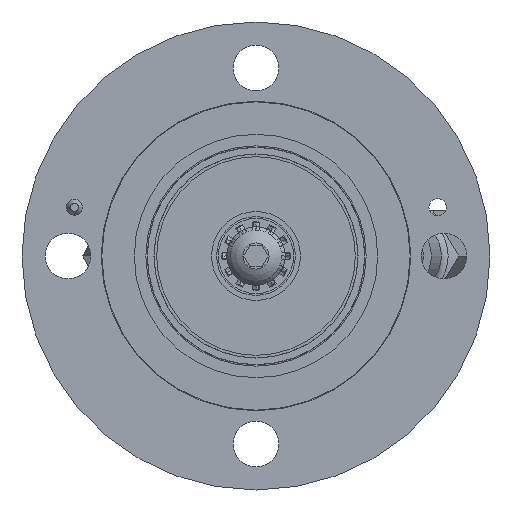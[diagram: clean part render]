
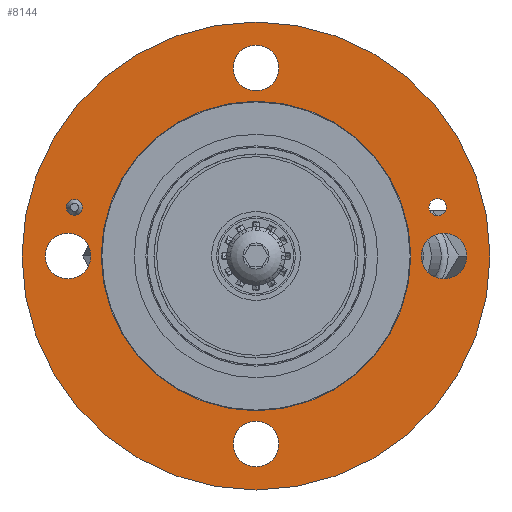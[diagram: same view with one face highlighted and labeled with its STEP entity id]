
A CAD part, front view. The second image highlights one B-rep face of the part: STEP entity #8144.
In plain terms, the highlighted planar face has unit normal (0, -1, 0).
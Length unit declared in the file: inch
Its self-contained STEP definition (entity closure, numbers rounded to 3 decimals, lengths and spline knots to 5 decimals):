
#382=PLANE('',#10966);
#2783=ORIENTED_EDGE('',*,*,#4617,.F.);
#2784=ORIENTED_EDGE('',*,*,#4618,.F.);
#2785=ORIENTED_EDGE('',*,*,#4619,.T.);
#2786=ORIENTED_EDGE('',*,*,#4620,.T.);
#2787=ORIENTED_EDGE('',*,*,#4621,.T.);
#2788=ORIENTED_EDGE('',*,*,#4622,.T.);
#2789=ORIENTED_EDGE('',*,*,#4623,.T.);
#2790=ORIENTED_EDGE('',*,*,#4624,.F.);
#4617=EDGE_CURVE('',#5623,#5623,#6273,.T.);
#4618=EDGE_CURVE('',#5624,#5624,#6274,.T.);
#4619=EDGE_CURVE('',#5625,#5625,#6275,.T.);
#4620=EDGE_CURVE('',#5626,#5626,#6276,.T.);
#4621=EDGE_CURVE('',#5627,#5627,#6277,.T.);
#4622=EDGE_CURVE('',#5628,#5628,#6278,.T.);
#4623=EDGE_CURVE('',#5629,#5629,#6279,.T.);
#4624=EDGE_CURVE('',#5630,#5630,#6280,.T.);
#5623=VERTEX_POINT('',#14807);
#5624=VERTEX_POINT('',#14809);
#5625=VERTEX_POINT('',#14811);
#5626=VERTEX_POINT('',#14813);
#5627=VERTEX_POINT('',#14815);
#5628=VERTEX_POINT('',#14817);
#5629=VERTEX_POINT('',#14819);
#5630=VERTEX_POINT('',#14821);
#6273=CIRCLE('',#10967,0.0645);
#6274=CIRCLE('',#10968,0.06);
#6275=CIRCLE('',#10969,0.1715);
#6276=CIRCLE('',#10970,0.1715);
#6277=CIRCLE('',#10971,0.1715);
#6278=CIRCLE('',#10972,0.1715);
#6279=CIRCLE('',#10973,1.1575);
#6280=CIRCLE('',#10974,1.75);
#6705=EDGE_LOOP('',(#2783));
#6706=EDGE_LOOP('',(#2784));
#6707=EDGE_LOOP('',(#2785));
#6708=EDGE_LOOP('',(#2786));
#6709=EDGE_LOOP('',(#2787));
#6710=EDGE_LOOP('',(#2788));
#6711=EDGE_LOOP('',(#2789));
#6712=EDGE_LOOP('',(#2790));
#7370=FACE_BOUND('',#6705,.T.);
#7371=FACE_BOUND('',#6706,.T.);
#7372=FACE_BOUND('',#6707,.T.);
#7373=FACE_BOUND('',#6708,.T.);
#7374=FACE_BOUND('',#6709,.T.);
#7375=FACE_BOUND('',#6710,.T.);
#7376=FACE_BOUND('',#6711,.T.);
#7377=FACE_BOUND('',#6712,.T.);
#8144=ADVANCED_FACE('',(#7370,#7371,#7372,#7373,#7374,#7375,#7376,#7377),
#382,.T.);
#10966=AXIS2_PLACEMENT_3D('',#14805,#12434,#12435);
#10967=AXIS2_PLACEMENT_3D('',#14806,#12436,#12437);
#10968=AXIS2_PLACEMENT_3D('',#14808,#12438,#12439);
#10969=AXIS2_PLACEMENT_3D('',#14810,#12440,#12441);
#10970=AXIS2_PLACEMENT_3D('',#14812,#12442,#12443);
#10971=AXIS2_PLACEMENT_3D('',#14814,#12444,#12445);
#10972=AXIS2_PLACEMENT_3D('',#14816,#12446,#12447);
#10973=AXIS2_PLACEMENT_3D('',#14818,#12448,#12449);
#10974=AXIS2_PLACEMENT_3D('',#14820,#12450,#12451);
#12434=DIRECTION('',(0.,-1.,0.));
#12435=DIRECTION('',(1.,0.,0.));
#12436=DIRECTION('',(0.,-1.,0.));
#12437=DIRECTION('',(1.,0.,0.));
#12438=DIRECTION('',(0.,-1.,0.));
#12439=DIRECTION('',(1.,0.,0.));
#12440=DIRECTION('',(0.,1.,0.));
#12441=DIRECTION('',(0.,0.,-1.));
#12442=DIRECTION('',(0.,1.,0.));
#12443=DIRECTION('',(-1.,0.,0.));
#12444=DIRECTION('',(0.,1.,0.));
#12445=DIRECTION('',(0.,0.,1.));
#12446=DIRECTION('',(0.,1.,0.));
#12447=DIRECTION('',(1.,0.,0.));
#12448=DIRECTION('',(0.,1.,0.));
#12449=DIRECTION('',(-1.,0.,0.));
#12450=DIRECTION('',(0.,1.,0.));
#12451=DIRECTION('',(-1.,0.,0.));
#14805=CARTESIAN_POINT('',(-1.75,-2.223,0.));
#14806=CARTESIAN_POINT('',(1.35809,-2.223,0.3639));
#14807=CARTESIAN_POINT('',(1.42259,-2.223,0.3639));
#14808=CARTESIAN_POINT('',(-1.35809,-2.223,0.3639));
#14809=CARTESIAN_POINT('',(-1.29809,-2.223,0.3639));
#14810=CARTESIAN_POINT('',(-1.406,-2.223,0.));
#14811=CARTESIAN_POINT('',(-1.406,-2.223,-0.1715));
#14812=CARTESIAN_POINT('',(0.,-2.223,1.406));
#14813=CARTESIAN_POINT('',(-0.1715,-2.223,1.406));
#14814=CARTESIAN_POINT('',(1.406,-2.223,0.));
#14815=CARTESIAN_POINT('',(1.406,-2.223,0.1715));
#14816=CARTESIAN_POINT('',(0.,-2.223,-1.406));
#14817=CARTESIAN_POINT('',(0.1715,-2.223,-1.406));
#14818=CARTESIAN_POINT('',(0.,-2.223,0.));
#14819=CARTESIAN_POINT('',(-1.1575,-2.223,0.));
#14820=CARTESIAN_POINT('',(0.,-2.223,0.));
#14821=CARTESIAN_POINT('',(-1.75,-2.223,0.));
